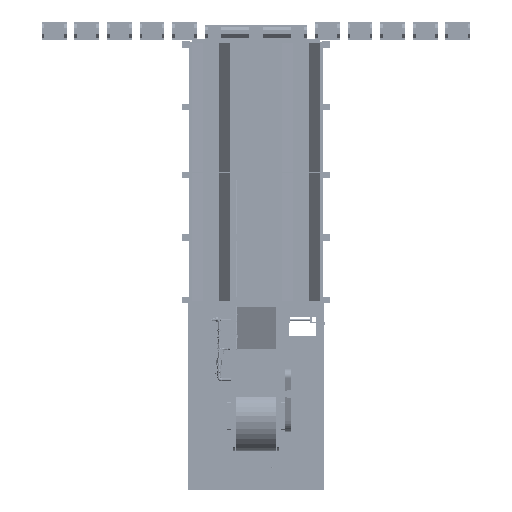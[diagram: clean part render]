
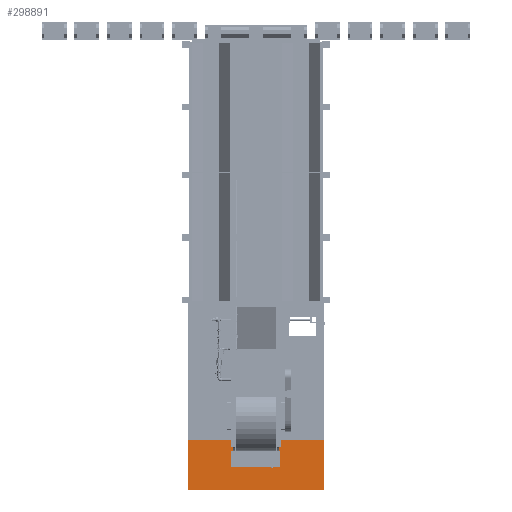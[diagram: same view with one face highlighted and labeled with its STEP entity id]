
A CAD part, front view. The second image highlights one B-rep face of the part: STEP entity #298891.
In plain terms, the highlighted planar face has unit normal (0, -1, 0) as drawn and (1, 0, 0) by its records, which use the part's own axes.
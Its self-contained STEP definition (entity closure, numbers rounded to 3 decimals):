
#58755=FACE_OUTER_BOUND('',#76504,.T.);
#76504=EDGE_LOOP('',(#265376,#265377,#265378,#265379));
#97318=LINE('',#722985,#120026);
#97354=LINE('',#723053,#120062);
#97366=LINE('',#723076,#120074);
#97367=LINE('',#723077,#120075);
#120026=VECTOR('',#392071,0.394);
#120062=VECTOR('',#392125,0.394);
#120074=VECTOR('',#392149,0.394);
#120075=VECTOR('',#392150,0.394);
#147323=VERTEX_POINT('',#722982);
#147324=VERTEX_POINT('',#722984);
#147347=VERTEX_POINT('',#723051);
#147352=VERTEX_POINT('',#723075);
#187367=EDGE_CURVE('',#147323,#147324,#97318,.T.);
#187403=EDGE_CURVE('',#147323,#147347,#97354,.T.);
#187415=EDGE_CURVE('',#147347,#147352,#97366,.T.);
#187416=EDGE_CURVE('',#147352,#147324,#97367,.T.);
#265376=ORIENTED_EDGE('',*,*,#187403,.T.);
#265377=ORIENTED_EDGE('',*,*,#187415,.T.);
#265378=ORIENTED_EDGE('',*,*,#187416,.T.);
#265379=ORIENTED_EDGE('',*,*,#187367,.F.);
#283318=PLANE('',#324958);
#298891=ADVANCED_FACE('',(#58755),#283318,.T.);
#324958=AXIS2_PLACEMENT_3D('',#723074,#392147,#392148);
#392071=DIRECTION('',(0.,0.,1.));
#392125=DIRECTION('',(0.,1.,0.));
#392147=DIRECTION('center_axis',(1.,0.,0.));
#392148=DIRECTION('ref_axis',(0.,0.,-1.));
#392149=DIRECTION('',(0.,0.,1.));
#392150=DIRECTION('',(0.,-1.,0.));
#722982=CARTESIAN_POINT('',(-0.125,-30.,101.063));
#722984=CARTESIAN_POINT('',(-0.125,-30.,137.75));
#722985=CARTESIAN_POINT('',(-0.125,-30.,0.));
#723051=CARTESIAN_POINT('',(-0.125,70.5,101.063));
#723053=CARTESIAN_POINT('',(-0.125,20.25,101.063));
#723074=CARTESIAN_POINT('Origin',(-0.125,70.5,0.));
#723075=CARTESIAN_POINT('',(-0.125,70.5,137.75));
#723076=CARTESIAN_POINT('',(-0.125,70.5,0.));
#723077=CARTESIAN_POINT('',(-0.125,-30.,137.75));
